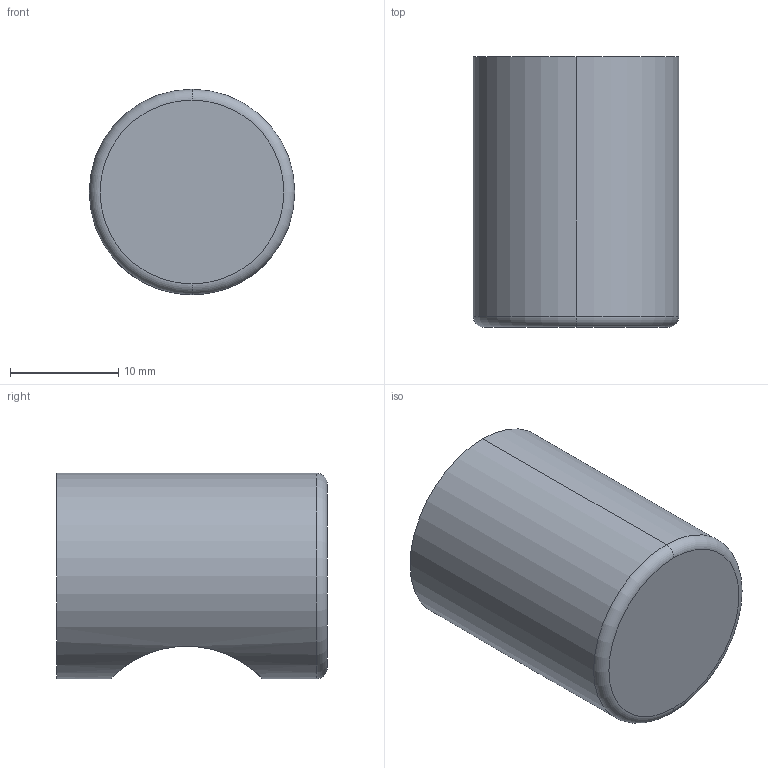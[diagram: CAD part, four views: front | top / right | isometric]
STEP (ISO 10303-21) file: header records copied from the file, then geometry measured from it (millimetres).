
FILE_DESCRIPTION( ( '' ), '1' );
FILE_NAME( 'C:/Documents and Settings/Nikhil/Desktop/Nik/Done/9118951.stp', '2013-10-24T05:17:11', ( '' ), ( '' ), ' ', ' ', ' ' );
FILE_SCHEMA( ( 'automotive_design' ) );
Length unit declared in the file: millimetre
Products named in the file (1): 1
Bounding box: 19 x 25 x 19 mm (x, y, z)
Volume: 6725.4 mm3; surface area: 2133.4 mm2
Topology: 1 solids, 1 shells, 10 faces, 19 edges, 12 vertices
Faces by surface type: cylinder 5, plane 3, torus 2
Entity records: 612 total; most frequent: CARTESIAN_POINT 140, DIRECTION 51, STYLED_ITEM 42, PRESENTATION_STYLE_ASSIGNMENT 42, COLOUR_RGB 42, ORIENTED_EDGE 38, AXIS2_PLACEMENT_3D 23, EDGE_CURVE 19
